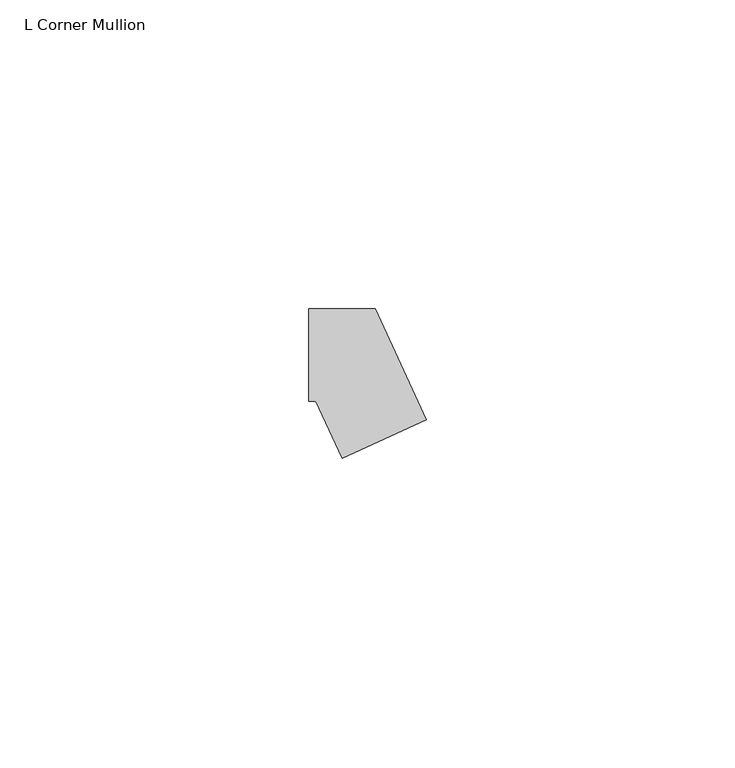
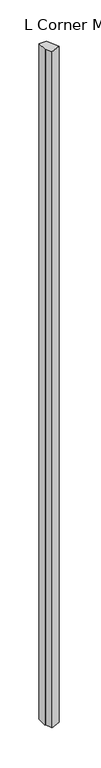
"""IFC4 building model written with IfcOpenShell, lengths in millimetres: member geometry, L Corner Mullion : ARQ_HERR_15X6mm."""

from ifc_helpers import new_model, si_unit, frame, origin, place, context, project, spatial, polyline, outline, extrude, source, transform, mapped, element, save


def l_corner_mullion_90f03896(model_context):
    return source(origin(), model_context, "Body", "SweptSolid", [
        extrude(outline(polyline([(-0.5775282, -16.7605627), (-4.8156946, -7.5), (-6.0, -7.5), (-6.0, 7.5), (4.8156946, 7.5), (13.0619332, -10.5183601), (-0.5775282, -16.7605627)])), frame((0.0, 0.0, -1050.2499815), z_axis=(0.0, 0.0, 1.0), x_axis=(1.0, 0.0, 0.0)), (0.0, 0.0, 1.0), 1050.2499815),
    ])


if __name__ == "__main__":
    model = new_model("IFC4")
    model_context = context("Model", 3, world=origin())
    ifc_project = project(units=[si_unit("LENGTHUNIT", "METRE", prefix="MILLI")], contexts=[model_context])
    site = spatial("IfcSite", under=ifc_project)
    building = spatial("IfcBuilding", under=site)
    placement = place(None, origin())
    l_corner_mullion_shape = l_corner_mullion_90f03896(model_context)
    element("IfcMember", 1, ObjectType="L Corner Mullion : ARQ_HERR_15X6mm", at=placement, inside=building, context=model_context, shape_type="MappedRepresentation", body=[
        mapped(l_corner_mullion_shape, transform((0.0, 0.0, 0.0), x_axis=(1.0, 0.0, 0.0), y_axis=(0.0, 1.0, 0.0), z_axis=(0.0, 0.0, 1.0))),
    ])
    save(model, "model.ifc")
